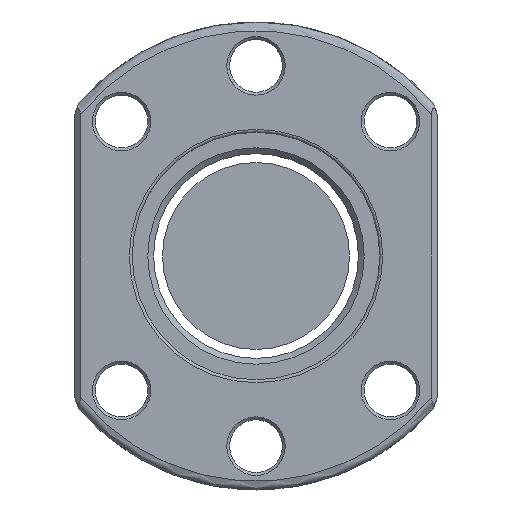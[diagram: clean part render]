
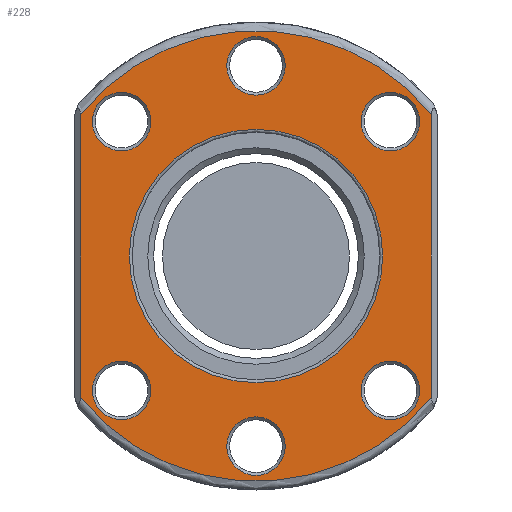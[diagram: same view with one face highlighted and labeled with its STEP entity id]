
A CAD part, front view. The second image highlights one B-rep face of the part: STEP entity #228.
In plain terms, the highlighted planar face has unit normal (0, -1, 0).
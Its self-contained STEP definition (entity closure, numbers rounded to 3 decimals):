
#53=LINE('',#1600,#77);
#54=LINE('',#1604,#78);
#77=VECTOR('',#1325,1.);
#78=VECTOR('',#1328,1.);
#165=PLANE('',#1088);
#228=ADVANCED_FACE('',(#343,#344,#345,#346,#347,#348,#349,#350),#165,.F.);
#343=FACE_BOUND('',#463,.T.);
#344=FACE_BOUND('',#464,.T.);
#345=FACE_BOUND('',#465,.T.);
#346=FACE_BOUND('',#466,.T.);
#347=FACE_BOUND('',#467,.T.);
#348=FACE_BOUND('',#468,.T.);
#349=FACE_BOUND('',#469,.T.);
#350=FACE_BOUND('',#470,.T.);
#463=EDGE_LOOP('',(#610));
#464=EDGE_LOOP('',(#611));
#465=EDGE_LOOP('',(#612));
#466=EDGE_LOOP('',(#613));
#467=EDGE_LOOP('',(#614));
#468=EDGE_LOOP('',(#615));
#469=EDGE_LOOP('',(#616));
#470=EDGE_LOOP('',(#617,#618,#619,#620));
#610=ORIENTED_EDGE('',*,*,#889,.T.);
#611=ORIENTED_EDGE('',*,*,#890,.T.);
#612=ORIENTED_EDGE('',*,*,#891,.T.);
#613=ORIENTED_EDGE('',*,*,#892,.T.);
#614=ORIENTED_EDGE('',*,*,#893,.T.);
#615=ORIENTED_EDGE('',*,*,#894,.T.);
#616=ORIENTED_EDGE('',*,*,#895,.T.);
#617=ORIENTED_EDGE('',*,*,#896,.T.);
#618=ORIENTED_EDGE('',*,*,#897,.T.);
#619=ORIENTED_EDGE('',*,*,#898,.T.);
#620=ORIENTED_EDGE('',*,*,#899,.T.);
#800=VERTEX_POINT('',#1584);
#801=VERTEX_POINT('',#1586);
#802=VERTEX_POINT('',#1588);
#803=VERTEX_POINT('',#1590);
#804=VERTEX_POINT('',#1592);
#805=VERTEX_POINT('',#1594);
#806=VERTEX_POINT('',#1596);
#807=VERTEX_POINT('',#1598);
#808=VERTEX_POINT('',#1599);
#809=VERTEX_POINT('',#1601);
#810=VERTEX_POINT('',#1603);
#889=EDGE_CURVE('',#800,#800,#980,.T.);
#890=EDGE_CURVE('',#801,#801,#981,.T.);
#891=EDGE_CURVE('',#802,#802,#982,.T.);
#892=EDGE_CURVE('',#803,#803,#983,.T.);
#893=EDGE_CURVE('',#804,#804,#984,.T.);
#894=EDGE_CURVE('',#805,#805,#985,.T.);
#895=EDGE_CURVE('',#806,#806,#986,.T.);
#896=EDGE_CURVE('',#807,#808,#987,.T.);
#897=EDGE_CURVE('',#808,#809,#53,.T.);
#898=EDGE_CURVE('',#809,#810,#988,.T.);
#899=EDGE_CURVE('',#810,#807,#54,.T.);
#980=CIRCLE('',#1079,5.);
#981=CIRCLE('',#1080,5.);
#982=CIRCLE('',#1081,5.);
#983=CIRCLE('',#1082,5.);
#984=CIRCLE('',#1083,5.);
#985=CIRCLE('',#1084,5.);
#986=CIRCLE('',#1085,21.65);
#987=CIRCLE('',#1086,38.5);
#988=CIRCLE('',#1087,38.5);
#1079=AXIS2_PLACEMENT_3D('',#1583,#1309,#1310);
#1080=AXIS2_PLACEMENT_3D('',#1585,#1311,#1312);
#1081=AXIS2_PLACEMENT_3D('',#1587,#1313,#1314);
#1082=AXIS2_PLACEMENT_3D('',#1589,#1315,#1316);
#1083=AXIS2_PLACEMENT_3D('',#1591,#1317,#1318);
#1084=AXIS2_PLACEMENT_3D('',#1593,#1319,#1320);
#1085=AXIS2_PLACEMENT_3D('',#1595,#1321,#1322);
#1086=AXIS2_PLACEMENT_3D('',#1597,#1323,#1324);
#1087=AXIS2_PLACEMENT_3D('',#1602,#1326,#1327);
#1088=AXIS2_PLACEMENT_3D('',#1605,#1329,#1330);
#1309=DIRECTION('',(0.,1.,0.));
#1310=DIRECTION('',(0.,0.,1.));
#1311=DIRECTION('',(0.,1.,0.));
#1312=DIRECTION('',(0.,0.,1.));
#1313=DIRECTION('',(0.,1.,0.));
#1314=DIRECTION('',(0.,0.,1.));
#1315=DIRECTION('',(0.,1.,0.));
#1316=DIRECTION('',(0.,0.,1.));
#1317=DIRECTION('',(0.,1.,0.));
#1318=DIRECTION('',(0.,0.,1.));
#1319=DIRECTION('',(0.,1.,0.));
#1320=DIRECTION('',(0.,0.,1.));
#1321=DIRECTION('',(0.,1.,0.));
#1322=DIRECTION('',(0.,0.,1.));
#1323=DIRECTION('',(0.,-1.,0.));
#1324=DIRECTION('',(0.,0.,1.));
#1325=DIRECTION('',(0.,0.,1.));
#1326=DIRECTION('',(0.,-1.,0.));
#1327=DIRECTION('',(0.,0.,1.));
#1328=DIRECTION('',(0.,0.,-1.));
#1329=DIRECTION('',(0.,1.,0.));
#1330=DIRECTION('',(0.,0.,1.));
#1583=CARTESIAN_POINT('',(0.,0.,32.5));
#1584=CARTESIAN_POINT('',(0.,0.,37.5));
#1585=CARTESIAN_POINT('',(22.981,0.,22.981));
#1586=CARTESIAN_POINT('',(22.981,0.,27.981));
#1587=CARTESIAN_POINT('',(22.981,0.,-22.981));
#1588=CARTESIAN_POINT('',(22.981,0.,-17.981));
#1589=CARTESIAN_POINT('',(0.,0.,-32.5));
#1590=CARTESIAN_POINT('',(0.,0.,-27.5));
#1591=CARTESIAN_POINT('',(-22.981,0.,-22.981));
#1592=CARTESIAN_POINT('',(-22.981,0.,-17.981));
#1593=CARTESIAN_POINT('',(-22.981,0.,22.981));
#1594=CARTESIAN_POINT('',(-22.981,0.,27.981));
#1595=CARTESIAN_POINT('',(0.,0.,0.));
#1596=CARTESIAN_POINT('',(0.,0.,21.65));
#1597=CARTESIAN_POINT('',(0.,0.,0.));
#1598=CARTESIAN_POINT('',(-30.,0.,-24.13));
#1599=CARTESIAN_POINT('',(30.,0.,-24.13));
#1600=CARTESIAN_POINT('',(30.,0.,0.));
#1601=CARTESIAN_POINT('',(30.,0.,24.13));
#1602=CARTESIAN_POINT('',(0.,0.,0.));
#1603=CARTESIAN_POINT('',(-30.,0.,24.13));
#1604=CARTESIAN_POINT('',(-30.,0.,0.));
#1605=CARTESIAN_POINT('',(0.,0.,0.));
